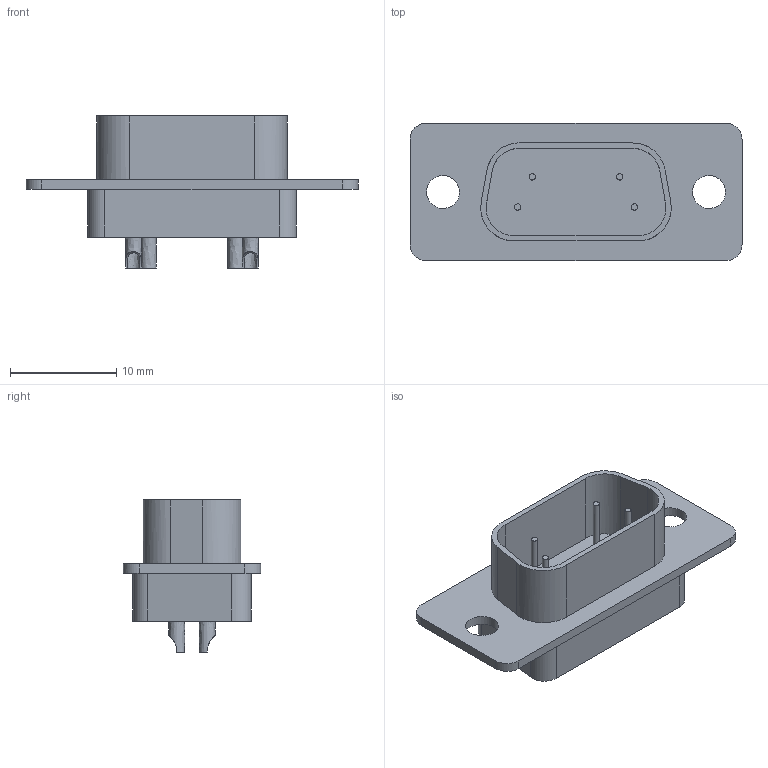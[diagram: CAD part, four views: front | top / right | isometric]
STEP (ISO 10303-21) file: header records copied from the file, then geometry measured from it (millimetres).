
FILE_DESCRIPTION((''),'2;1');
FILE_NAME('/users2/sdrc3/0964_Dsub-F_male_solder_bucket_9-pins.stp', '2005-09-12T18:08:52',('User'),('SDRC'),'I-DEAS Master Series 9','UNIX', 'Yes');
FILE_SCHEMA(('AUTOMOTIVE_DESIGN { 1 0 10303 214 1 1 1 1 }'));
Length unit declared in the file: millimetre
Products named in the file (1): 09 64 121 72x0
Bounding box: 31.2 x 12.9 x 14.3 mm (x, y, z)
Volume: 1284.1 mm3; surface area: 1839.7 mm2
Topology: 1 solids, 1 shells, 67 faces, 154 edges, 100 vertices
Faces by surface type: bspline 67
Entity records: 2159 total; most frequent: CARTESIAN_POINT 1117, ORIENTED_EDGE 308, EDGE_CURVE 154, VERTEX_POINT 100, EDGE_LOOP 82, OVER_RIDING_STYLED_ITEM 72, FACE_OUTER_BOUND 67, ADVANCED_FACE 67
